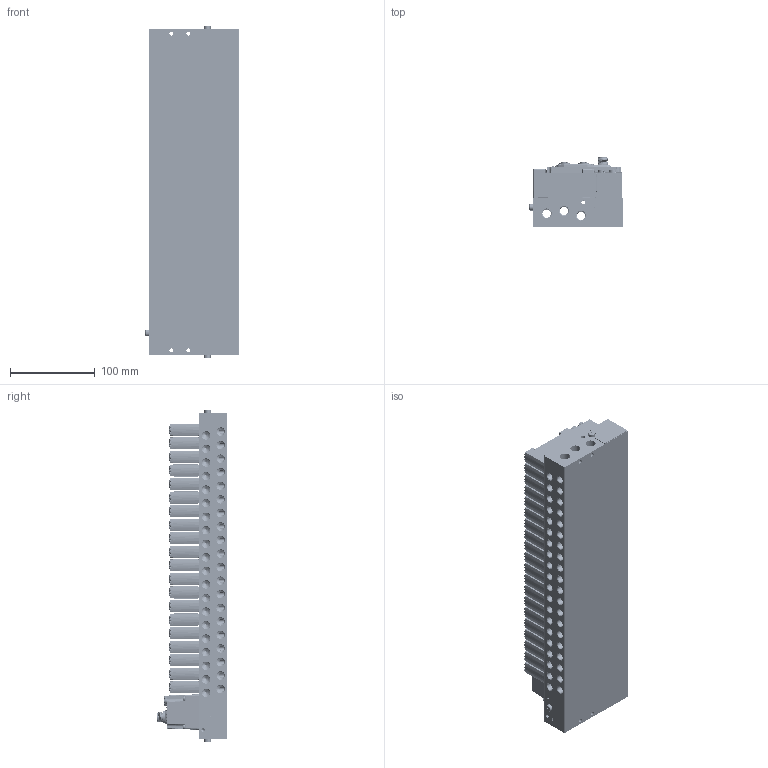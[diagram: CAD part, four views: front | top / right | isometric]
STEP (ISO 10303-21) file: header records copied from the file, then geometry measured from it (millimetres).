
FILE_DESCRIPTION((''),'2;1');
FILE_NAME('C3-L14-W-XBF-20_ASM','2026-06-22T13:26:36',('admin'),(''),'CREO PARAMETRIC BY PTC INC, 2022073','CREO PARAMETRIC BY PTC INC, 2022073','');
FILE_SCHEMA(('CONFIG_CONTROL_DESIGN'));
Products named in the file (49): 202300320_ASM-1_202300351-1-SOL; PRT0002-1-SOLID2; PRT0002-1-SOLID4; 202300320_ASM-1_202300353-1-SOL; 202300320_ASM-1_202300314_ASM-1; 202300320_ASM-1_202300327-1-SOL; PRT0002-1-SOLID1; 202300320_ASM-1_202300351-2-SOL; 202300320_ASM-1_202300318_ASM-1; 202300320_ASM-1_202300349-2-SOL; 202300320_ASM-1_202300144-1-SOL; 202300320_ASM-1_202300355-2-SOL; 202300320_ASM-1_202300349-1-SOL; 202300320_ASM-1_202300353-2-SOL; NONE-197369; 202300320_ASM-1_202300355-1-SOL; NONE-217285; NONE-224310; SURFACE-VGB14_ASM; 0001; XBF_0001_ASM; M50001; C3-L14-W-XBF-20-221922; C3-L14-W-XBF-20-219078_ASM; SURFACE-VGB14_ASM_1_ASM_1_ASM_1; M3X16-2-SOLID10001_1_1_1; M3X16-4-SOLID10001_1_1_1; SH794-1-1-SOLID1_1_1_1_1; SH794-1-1-SOLID1_1_2_1_1; SH794-1-1-SOLID1_1_3_1_1; SH794-1-1-SOLID1_1_ASM_1_ASM_1_ASM; M3X5-1-SOLID10001_1_1_1; M3X16-3-SOLID10001_1_1_1; M12D-2022_11_-70380001_1_1_1; M12D-2022_11_-82260001_1_1_1; M3X16-1-SOLID10001_1_1_1; NONE-196029_1_1_1; SH794-3-1-SOLID1_1_1_1; NONE-215390_1_1_1; M12A5-1-SOLID10001_1_1_1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
Assembly tree (99 placements, depth 9):
  C3-L14-W-XBF-20_ASM
    C3-L14-W-XBF-20-219078_ASM
      SURFACE-VGB14_ASM  x20
        202300320_ASM-1_202300351-1-SOL
        PRT0002-1-SOLID2
        PRT0002-1-SOLID4
        202300320_ASM-1_202300353-1-SOL
        202300320_ASM-1_202300314_ASM-1
        202300320_ASM-1_202300327-1-SOL
        PRT0002-1-SOLID1
        202300320_ASM-1_202300351-2-SOL
        202300320_ASM-1_202300318_ASM-1
        202300320_ASM-1_202300349-2-SOL
        202300320_ASM-1_202300144-1-SOL
        202300320_ASM-1_202300355-2-SOL
        202300320_ASM-1_202300349-1-SOL
        202300320_ASM-1_202300353-2-SOL
        NONE-197369
        202300320_ASM-1_202300355-1-SOL
        NONE-217285
        NONE-224310
      0001  x2
      XBF_0001_ASM
      M50001  x3
      C3-L14-W-XBF-20-221922
    C3EC_ASM
      C3-L14-W-XBF-24_ASM_ASM_1_ASM
        C3-L14-W-XBF-24_ASM_ASM_1_ASM_1_ASM
          C3-L14-W-XBF-24_ASM_1_ASM_1_ASM_ASM
            C3-L14-W-XBF-24-210887_ASM_1_AS_ASM
              SURFACE-VGB14_ASM_1_ASM_1_ASM_1  x24
              XBF_0001_ASM_1_ASM_1_ASM_1_ASM
                M3X16-2-SOLID10001_1_1_1
                M3X16-4-SOLID10001_1_1_1
                SH794-1-1-SOLID1_1_ASM_1_ASM_1_ASM
                  SH794-1-1-SOLID1_1_1_1_1
                  SH794-1-1-SOLID1_1_2_1_1
                  SH794-1-1-SOLID1_1_3_1_1
                M3X5-1-SOLID10001_1_1_1  x2
                M3X16-3-SOLID10001_1_1_1
                M12D-2022_11_-70380001_1_1_1
                M12D-2022_11_-82260001_1_1_1
                M3X16-1-SOLID10001_1_1_1
                NONE-196029_1_1_1
                SH794-3-1-SOLID1_1_1_1
                NONE-215390_1_1_1
                M12A5-1-SOLID10001_1_1_1
            _06--1-SOLID30001_1_1_1  x6
            IP_COVER_1_1_1
Bounding box: 110 x 83.3 x 392 mm (x, y, z)
Volume: 1790247.3 mm3; surface area: 645813.8 mm2
Topology: 388 solids, 530 shells, 30051 faces, 77006 edges, 44775 vertices
Faces by surface type: cylinder 10451, plane 7418, bspline 3380, torus 3189, cone 2813, sphere 2715, extrusion 85
Entity records: 201714 total; most frequent: CARTESIAN_POINT 70942, ORIENTED_EDGE 27260, DIRECTION 27250, EDGE_CURVE 13638, AXIS2_PLACEMENT_3D 10667, VERTEX_POINT 8711, EDGE_LOOP 6075, VECTOR 5916
